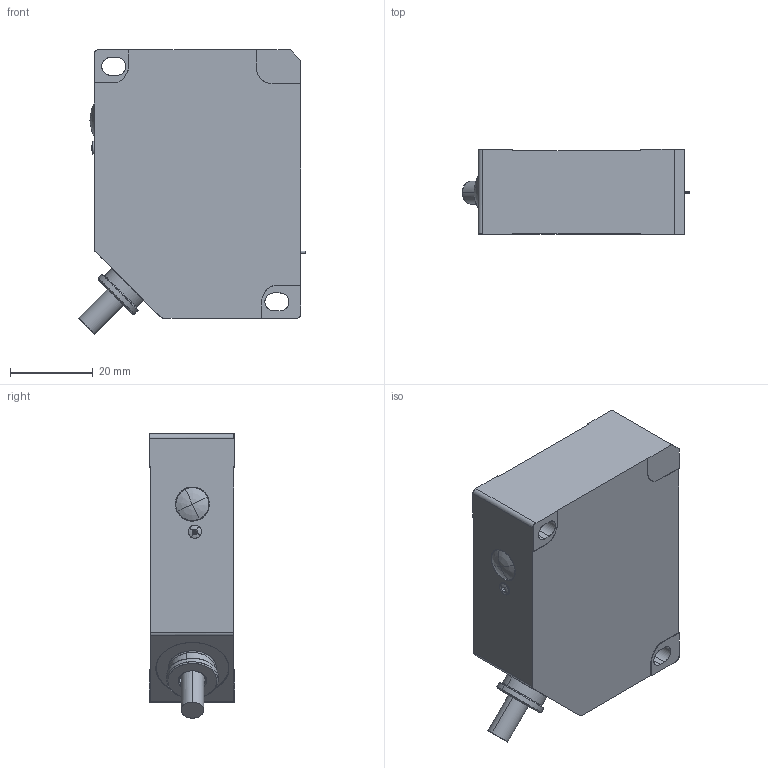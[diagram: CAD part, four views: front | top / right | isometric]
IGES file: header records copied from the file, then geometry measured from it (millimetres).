
Start section: Comment
Global section: file name: OADM 20 Kabel.igs; native system:  By UGS Corp.; preprocessor: XPlus GENERIC/IGES 3.0; author: Author; organization: Title; date: 20101215.090106; units: millimetre
Bounding box: 55.01 x 20.6 x 68.81 mm (x, y, z)
Surface area: 12075.5 mm2 (no closed solid volume)
Topology: 0 solids, 0 shells, 148 faces, 746 edges, 738 vertices
Faces by surface type: bspline 148
